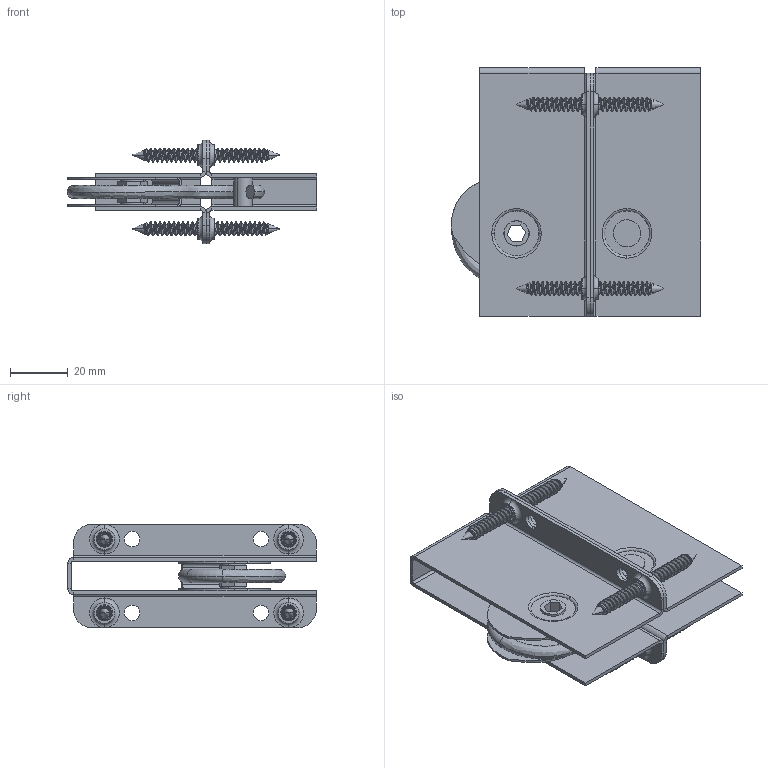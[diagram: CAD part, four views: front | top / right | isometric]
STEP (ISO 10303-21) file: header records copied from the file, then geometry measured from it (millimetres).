
FILE_DESCRIPTION (( 'STEP AP203' ), '1' );
FILE_NAME ('TDS 108-1.STEP', '2014-04-05T23:24:52', ( 'Owner' ), ( '' ), 'SwSTEP 2.0', 'SolidWorks 2011', '' );
FILE_SCHEMA (( 'CONFIG_CONTROL_DESIGN' ));
Length unit declared in the file: inch
Products named in the file (9): TDS 108-1; T1 T2 T3 LARGE HEX KEY; S-HOOK TDS 89-1; SPRING PLATE TDS 89-1; LARGE RIVET_.375 LG; #10 FHPS_90198A316; S HOOK ASSY TDS 89-1_TDS 36-4A; R500-3-500; S1500-3-1.000
Assembly tree (15 placements, depth 3):
  TDS 108-1
    #10 FHPS_90198A316  x8
    S HOOK ASSY TDS 89-1_TDS 36-4A
      S-HOOK TDS 89-1
      T1 T2 T3 LARGE HEX KEY
      SPRING PLATE TDS 89-1
    S1500-3-1.000
    LARGE RIVET_.375 LG
    R500-3-500
Bounding box: 85.97 x 85.72 x 35.67 mm (x, y, z)
Volume: 26945.9 mm3; surface area: 46607.1 mm2
Topology: 14 solids, 14 shells, 1091 faces, 2804 edges, 1764 vertices
Faces by surface type: cylinder 448, plane 267, bspline 204, cone 88, torus 84
Entity records: 14938 total; most frequent: CARTESIAN_POINT 5450, DIRECTION 1771, ORIENTED_EDGE 1730, EDGE_CURVE 865, AXIS2_PLACEMENT_3D 698, VERTEX_POINT 532, EDGE_LOOP 425, VECTOR 375
